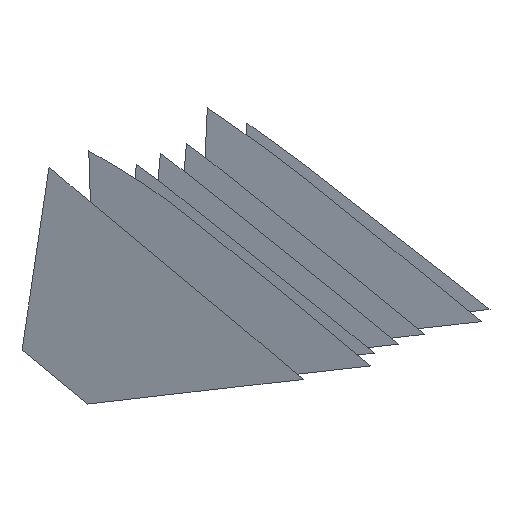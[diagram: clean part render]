
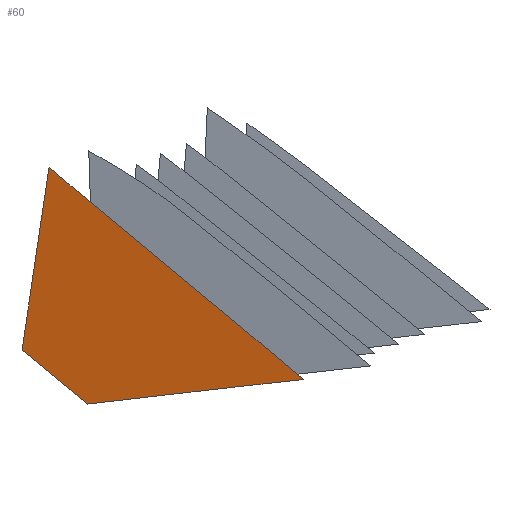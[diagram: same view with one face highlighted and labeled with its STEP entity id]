
A CAD part, front view. The second image highlights one B-rep face of the part: STEP entity #60.
In plain terms, the highlighted free-form (B-spline) face has degree [1, 1] with [2, 2] control points.
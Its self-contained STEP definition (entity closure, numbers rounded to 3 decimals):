
#60 = ADVANCED_FACE('',(#61),#74,.T.);
#61 = FACE_BOUND('',#62,.T.);
#62 = EDGE_LOOP('',(#63,#84,#98,#112,#126,#140,#154,#168,#182,#196));
#63 = ORIENTED_EDGE('',*,*,#64,.T.);
#64 = EDGE_CURVE('',#65,#67,#69,.T.);
#65 = VERTEX_POINT('',#66);
#66 = CARTESIAN_POINT('',(1604.506,-1438.162,
    1371.25));
#67 = VERTEX_POINT('',#68);
#68 = CARTESIAN_POINT('',(1606.586,-1438.568,
    1369.526));
#69 = SURFACE_CURVE('',#70,(#73),.PCURVE_S1.);
#70 = B_SPLINE_CURVE_WITH_KNOTS('',1,(#71,#72),.UNSPECIFIED.,.F.,.F.,(2,
    2),(0.,2.732),.PIECEWISE_BEZIER_KNOTS.);
#71 = CARTESIAN_POINT('',(1604.506,-1438.162,
    1371.25));
#72 = CARTESIAN_POINT('',(1606.586,-1438.568,
    1369.526));
#73 = PCURVE('',#74,#79);
#74 = B_SPLINE_SURFACE_WITH_KNOTS('',1,1,(
    (#75,#76)
    ,(#77,#78
    )),.UNSPECIFIED.,.F.,.F.,.F.,(2,2),(2,2),(-5.04,
    2.931),(-3.988,5.069),
  .PIECEWISE_BEZIER_KNOTS.);
#75 = CARTESIAN_POINT('',(1603.566,-1438.402,
    1376.816));
#76 = CARTESIAN_POINT('',(1612.184,-1440.84,
    1378.165));
#77 = CARTESIAN_POINT('',(1604.892,-1438.063,
    1368.963));
#78 = CARTESIAN_POINT('',(1613.509,-1440.5,
    1370.312));
#79 = DEFINITIONAL_REPRESENTATION('',(#80),#83);
#80 = B_SPLINE_CURVE_WITH_KNOTS('',1,(#81,#82),.UNSPECIFIED.,.F.,.F.,(2,
    2),(0.,2.732),.PIECEWISE_BEZIER_KNOTS.);
#81 = CARTESIAN_POINT('',(0.609,-3.988));
#82 = CARTESIAN_POINT('',(2.636,-2.155));
#83 = ( GEOMETRIC_REPRESENTATION_CONTEXT(2) 
PARAMETRIC_REPRESENTATION_CONTEXT() REPRESENTATION_CONTEXT('2D SPACE',''
  ) );
#84 = ORIENTED_EDGE('',*,*,#85,.T.);
#85 = EDGE_CURVE('',#67,#86,#88,.T.);
#86 = VERTEX_POINT('',#87);
#87 = CARTESIAN_POINT('',(1608.159,-1439.008,
    1369.708));
#88 = SURFACE_CURVE('',#89,(#92),.PCURVE_S1.);
#89 = B_SPLINE_CURVE_WITH_KNOTS('',1,(#90,#91),.UNSPECIFIED.,.F.,.F.,(2,
    2),(0.,1.644),.PIECEWISE_BEZIER_KNOTS.);
#90 = CARTESIAN_POINT('',(1606.586,-1438.568,
    1369.526));
#91 = CARTESIAN_POINT('',(1608.159,-1439.008,
    1369.708));
#92 = PCURVE('',#74,#93);
#93 = DEFINITIONAL_REPRESENTATION('',(#94),#97);
#94 = B_SPLINE_CURVE_WITH_KNOTS('',1,(#95,#96),.UNSPECIFIED.,.F.,.F.,(2,
    2),(0.,1.644),.PIECEWISE_BEZIER_KNOTS.);
#95 = CARTESIAN_POINT('',(2.636,-2.155));
#96 = CARTESIAN_POINT('',(2.7,-0.513));
#97 = ( GEOMETRIC_REPRESENTATION_CONTEXT(2) 
PARAMETRIC_REPRESENTATION_CONTEXT() REPRESENTATION_CONTEXT('2D SPACE',''
  ) );
#98 = ORIENTED_EDGE('',*,*,#99,.T.);
#99 = EDGE_CURVE('',#86,#100,#102,.T.);
#100 = VERTEX_POINT('',#101);
#101 = CARTESIAN_POINT('',(1610.075,-1439.542,
    1369.929));
#102 = SURFACE_CURVE('',#103,(#106),.PCURVE_S1.);
#103 = B_SPLINE_CURVE_WITH_KNOTS('',1,(#104,#105),.UNSPECIFIED.,.F.,.F.,
  (2,2),(0.,2.001),.PIECEWISE_BEZIER_KNOTS.);
#104 = CARTESIAN_POINT('',(1608.159,-1439.008,
    1369.708));
#105 = CARTESIAN_POINT('',(1610.075,-1439.542,
    1369.929));
#106 = PCURVE('',#74,#107);
#107 = DEFINITIONAL_REPRESENTATION('',(#108),#111);
#108 = B_SPLINE_CURVE_WITH_KNOTS('',1,(#109,#110),.UNSPECIFIED.,.F.,.F.,
  (2,2),(0.,2.001),.PIECEWISE_BEZIER_KNOTS.);
#109 = CARTESIAN_POINT('',(2.7,-0.513));
#110 = CARTESIAN_POINT('',(2.778,1.486));
#111 = ( GEOMETRIC_REPRESENTATION_CONTEXT(2) 
PARAMETRIC_REPRESENTATION_CONTEXT() REPRESENTATION_CONTEXT('2D SPACE',''
  ) );
#112 = ORIENTED_EDGE('',*,*,#113,.T.);
#113 = EDGE_CURVE('',#100,#114,#116,.T.);
#114 = VERTEX_POINT('',#115);
#115 = CARTESIAN_POINT('',(1611.99,-1440.077,
    1370.147));
#116 = SURFACE_CURVE('',#117,(#120),.PCURVE_S1.);
#117 = B_SPLINE_CURVE_WITH_KNOTS('',1,(#118,#119),.UNSPECIFIED.,.F.,.F.,
  (2,2),(0.,2.001),.PIECEWISE_BEZIER_KNOTS.);
#118 = CARTESIAN_POINT('',(1610.075,-1439.542,
    1369.929));
#119 = CARTESIAN_POINT('',(1611.99,-1440.077,
    1370.147));
#120 = PCURVE('',#74,#121);
#121 = DEFINITIONAL_REPRESENTATION('',(#122),#125);
#122 = B_SPLINE_CURVE_WITH_KNOTS('',1,(#123,#124),.UNSPECIFIED.,.F.,.F.,
  (2,2),(0.,2.001),.PIECEWISE_BEZIER_KNOTS.);
#123 = CARTESIAN_POINT('',(2.778,1.486));
#124 = CARTESIAN_POINT('',(2.859,3.485));
#125 = ( GEOMETRIC_REPRESENTATION_CONTEXT(2) 
PARAMETRIC_REPRESENTATION_CONTEXT() REPRESENTATION_CONTEXT('2D SPACE',''
  ) );
#126 = ORIENTED_EDGE('',*,*,#127,.T.);
#127 = EDGE_CURVE('',#114,#128,#130,.T.);
#128 = VERTEX_POINT('',#129);
#129 = CARTESIAN_POINT('',(1613.509,-1440.5,
    1370.312));
#130 = SURFACE_CURVE('',#131,(#134),.PCURVE_S1.);
#131 = B_SPLINE_CURVE_WITH_KNOTS('',1,(#132,#133),.UNSPECIFIED.,.F.,.F.,
  (2,2),(0.,1.585),.PIECEWISE_BEZIER_KNOTS.);
#132 = CARTESIAN_POINT('',(1611.99,-1440.077,
    1370.147));
#133 = CARTESIAN_POINT('',(1613.509,-1440.5,
    1370.312));
#134 = PCURVE('',#74,#135);
#135 = DEFINITIONAL_REPRESENTATION('',(#136),#139);
#136 = B_SPLINE_CURVE_WITH_KNOTS('',1,(#137,#138),.UNSPECIFIED.,.F.,.F.,
  (2,2),(0.,1.585),.PIECEWISE_BEZIER_KNOTS.);
#137 = CARTESIAN_POINT('',(2.859,3.485));
#138 = CARTESIAN_POINT('',(2.931,5.069));
#139 = ( GEOMETRIC_REPRESENTATION_CONTEXT(2) 
PARAMETRIC_REPRESENTATION_CONTEXT() REPRESENTATION_CONTEXT('2D SPACE',''
  ) );
#140 = ORIENTED_EDGE('',*,*,#141,.T.);
#141 = EDGE_CURVE('',#128,#142,#144,.T.);
#142 = VERTEX_POINT('',#143);
#143 = CARTESIAN_POINT('',(1611.54,-1440.118,
    1371.971));
#144 = SURFACE_CURVE('',#145,(#148),.PCURVE_S1.);
#145 = B_SPLINE_CURVE_WITH_KNOTS('',1,(#146,#147),.UNSPECIFIED.,.F.,.F.,
  (2,2),(0.,2.603),.PIECEWISE_BEZIER_KNOTS.);
#146 = CARTESIAN_POINT('',(1613.509,-1440.5,
    1370.312));
#147 = CARTESIAN_POINT('',(1611.54,-1440.118,
    1371.971));
#148 = PCURVE('',#74,#149);
#149 = DEFINITIONAL_REPRESENTATION('',(#150),#153);
#150 = B_SPLINE_CURVE_WITH_KNOTS('',1,(#151,#152),.UNSPECIFIED.,.F.,.F.,
  (2,2),(0.,2.603),.PIECEWISE_BEZIER_KNOTS.);
#151 = CARTESIAN_POINT('',(2.931,5.069));
#152 = CARTESIAN_POINT('',(0.985,3.34));
#153 = ( GEOMETRIC_REPRESENTATION_CONTEXT(2) 
PARAMETRIC_REPRESENTATION_CONTEXT() REPRESENTATION_CONTEXT('2D SPACE',''
  ) );
#154 = ORIENTED_EDGE('',*,*,#155,.T.);
#155 = EDGE_CURVE('',#142,#156,#158,.T.);
#156 = VERTEX_POINT('',#157);
#157 = CARTESIAN_POINT('',(1606.075,-1439.049,
    1376.499));
#158 = SURFACE_CURVE('',#159,(#162),.PCURVE_S1.);
#159 = B_SPLINE_CURVE_WITH_KNOTS('',1,(#160,#161),.UNSPECIFIED.,.F.,.F.,
  (2,2),(0.,7.177),.PIECEWISE_BEZIER_KNOTS.);
#160 = CARTESIAN_POINT('',(1611.54,-1440.118,
    1371.971));
#161 = CARTESIAN_POINT('',(1606.075,-1439.049,
    1376.499));
#162 = PCURVE('',#74,#163);
#163 = DEFINITIONAL_REPRESENTATION('',(#164),#167);
#164 = B_SPLINE_CURVE_WITH_KNOTS('',1,(#165,#166),.UNSPECIFIED.,.F.,.F.,
  (2,2),(0.,7.177),.PIECEWISE_BEZIER_KNOTS.);
#165 = CARTESIAN_POINT('',(0.985,3.34));
#166 = CARTESIAN_POINT('',(-4.338,-1.474));
#167 = ( GEOMETRIC_REPRESENTATION_CONTEXT(2) 
PARAMETRIC_REPRESENTATION_CONTEXT() REPRESENTATION_CONTEXT('2D SPACE',''
  ) );
#168 = ORIENTED_EDGE('',*,*,#169,.T.);
#169 = EDGE_CURVE('',#156,#170,#172,.T.);
#170 = VERTEX_POINT('',#171);
#171 = CARTESIAN_POINT('',(1606.027,-1439.04,
    1376.539));
#172 = SURFACE_CURVE('',#173,(#176),.PCURVE_S1.);
#173 = B_SPLINE_CURVE_WITH_KNOTS('',1,(#174,#175),.UNSPECIFIED.,.F.,.F.,
  (2,2),(0.,0.063),.PIECEWISE_BEZIER_KNOTS.);
#174 = CARTESIAN_POINT('',(1606.075,-1439.049,
    1376.499));
#175 = CARTESIAN_POINT('',(1606.027,-1439.04,
    1376.539));
#176 = PCURVE('',#74,#177);
#177 = DEFINITIONAL_REPRESENTATION('',(#178),#181);
#178 = B_SPLINE_CURVE_WITH_KNOTS('',1,(#179,#180),.UNSPECIFIED.,.F.,.F.,
  (2,2),(0.,0.063),.PIECEWISE_BEZIER_KNOTS.);
#179 = CARTESIAN_POINT('',(-4.338,-1.474));
#180 = CARTESIAN_POINT('',(-4.386,-1.516));
#181 = ( GEOMETRIC_REPRESENTATION_CONTEXT(2) 
PARAMETRIC_REPRESENTATION_CONTEXT() REPRESENTATION_CONTEXT('2D SPACE',''
  ) );
#182 = ORIENTED_EDGE('',*,*,#183,.T.);
#183 = EDGE_CURVE('',#170,#184,#186,.T.);
#184 = VERTEX_POINT('',#185);
#185 = CARTESIAN_POINT('',(1605.37,-1438.913,
    1377.098));
#186 = SURFACE_CURVE('',#187,(#190),.PCURVE_S1.);
#187 = B_SPLINE_CURVE_WITH_KNOTS('',1,(#188,#189),.UNSPECIFIED.,.F.,.F.,
  (2,2),(0.,0.872),.PIECEWISE_BEZIER_KNOTS.);
#188 = CARTESIAN_POINT('',(1606.027,-1439.04,
    1376.539));
#189 = CARTESIAN_POINT('',(1605.37,-1438.913,
    1377.098));
#190 = PCURVE('',#74,#191);
#191 = DEFINITIONAL_REPRESENTATION('',(#192),#195);
#192 = B_SPLINE_CURVE_WITH_KNOTS('',1,(#193,#194),.UNSPECIFIED.,.F.,.F.,
  (2,2),(0.,0.872),.PIECEWISE_BEZIER_KNOTS.);
#193 = CARTESIAN_POINT('',(-4.386,-1.516));
#194 = CARTESIAN_POINT('',(-5.04,-2.092));
#195 = ( GEOMETRIC_REPRESENTATION_CONTEXT(2) 
PARAMETRIC_REPRESENTATION_CONTEXT() REPRESENTATION_CONTEXT('2D SPACE',''
  ) );
#196 = ORIENTED_EDGE('',*,*,#197,.T.);
#197 = EDGE_CURVE('',#184,#65,#198,.T.);
#198 = SURFACE_CURVE('',#199,(#202),.PCURVE_S1.);
#199 = B_SPLINE_CURVE_WITH_KNOTS('',1,(#200,#201),.UNSPECIFIED.,.F.,.F.,
  (2,2),(0.,5.959),.PIECEWISE_BEZIER_KNOTS.);
#200 = CARTESIAN_POINT('',(1605.37,-1438.913,
    1377.098));
#201 = CARTESIAN_POINT('',(1604.506,-1438.162,
    1371.25));
#202 = PCURVE('',#74,#203);
#203 = DEFINITIONAL_REPRESENTATION('',(#204),#207);
#204 = B_SPLINE_CURVE_WITH_KNOTS('',1,(#205,#206),.UNSPECIFIED.,.F.,.F.,
  (2,2),(0.,5.959),.PIECEWISE_BEZIER_KNOTS.);
#205 = CARTESIAN_POINT('',(-5.04,-2.092));
#206 = CARTESIAN_POINT('',(0.609,-3.988));
#207 = ( GEOMETRIC_REPRESENTATION_CONTEXT(2) 
PARAMETRIC_REPRESENTATION_CONTEXT() REPRESENTATION_CONTEXT('2D SPACE',''
  ) );
